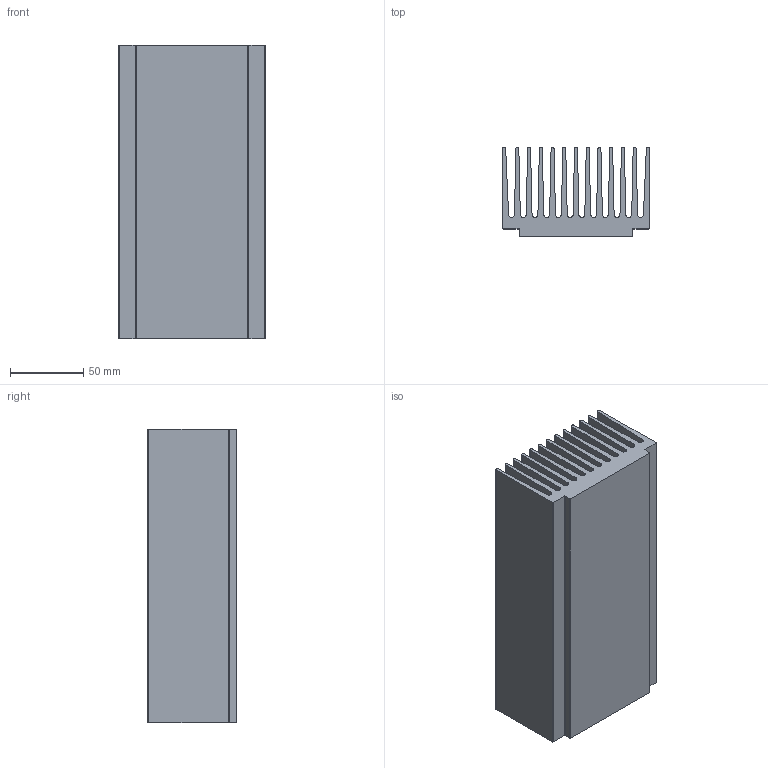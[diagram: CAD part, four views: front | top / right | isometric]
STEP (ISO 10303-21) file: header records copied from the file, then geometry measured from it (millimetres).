
FILE_DESCRIPTION (( 'STEP AP214' ), '1' );
FILE_NAME ('PR400.STEP', '2014-12-05T07:34:20', ( '' ), ( '' ), 'SwSTEP 2.0', 'SolidWorks 2014', '' );
FILE_SCHEMA (( 'AUTOMOTIVE_DESIGN' ));
Length unit declared in the file: millimetre
Products named in the file (1): PR400
Bounding box: 100 x 61 x 200 mm (x, y, z)
Volume: 615123.4 mm3; surface area: 289311.1 mm2
Topology: 1 solids, 1 shells, 64 faces, 186 edges, 124 vertices
Faces by surface type: plane 33, cylinder 31
Entity records: 2166 total; most frequent: DIRECTION 378, CARTESIAN_POINT 375, ORIENTED_EDGE 372, EDGE_CURVE 186, AXIS2_PLACEMENT_3D 127, VECTOR 124, LINE 124, VERTEX_POINT 124
